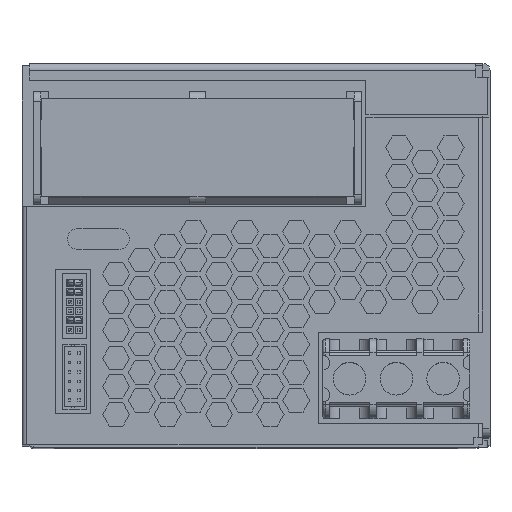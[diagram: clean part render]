
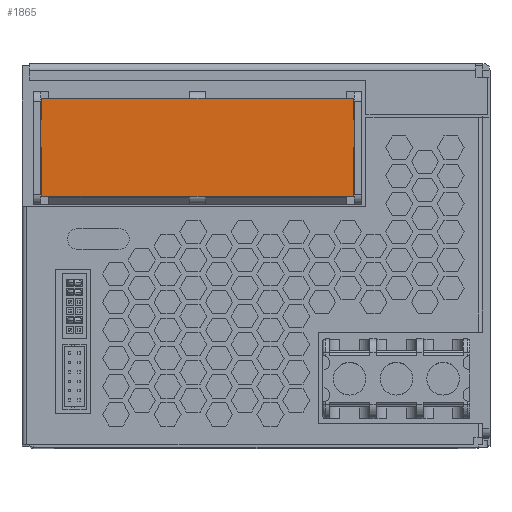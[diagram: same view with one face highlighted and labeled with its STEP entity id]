
A CAD part, top view. The second image highlights one B-rep face of the part: STEP entity #1865.
In plain terms, the highlighted planar face has unit normal (0, 0, 1).
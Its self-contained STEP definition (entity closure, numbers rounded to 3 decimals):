
#1839 = ORIENTED_EDGE ( 'NONE', *, *, #44470, .T. ) ;
#1840 = ORIENTED_EDGE ( 'NONE', *, *, #1891, .T. ) ;
#1844 = ORIENTED_EDGE ( 'NONE', *, *, #1871, .T. ) ;
#1853 = ORIENTED_EDGE ( 'NONE', *, *, #8163, .T. ) ;
#1854 = ORIENTED_EDGE ( 'NONE', *, *, #8047, .T. ) ;
#1856 = ORIENTED_EDGE ( 'NONE', *, *, #8064, .T. ) ;
#1857 = ORIENTED_EDGE ( 'NONE', *, *, #8142, .T. ) ;
#1858 = ORIENTED_EDGE ( 'NONE', *, *, #8116, .T. ) ;
#1859 = ORIENTED_EDGE ( 'NONE', *, *, #8236, .T. ) ;
#1860 = ORIENTED_EDGE ( 'NONE', *, *, #8108, .T. ) ;
#1861 = ORIENTED_EDGE ( 'NONE', *, *, #8228, .T. ) ;
#1862 = ORIENTED_EDGE ( 'NONE', *, *, #8085, .T. ) ;
#1865 = ADVANCED_FACE ( 'NONE', ( #45411 ), #45485, .F. ) ;
#1871 = EDGE_CURVE ( 'NONE', #1904, #8087, #45464, .T. ) ;
#1872 = EDGE_LOOP ( 'NONE', ( #1862, #1853, #1854, #1856, #1857, #1858, #1859, #1860, #1861, #1839, #1840, #1844 ) ) ;
#1891 = EDGE_CURVE ( 'NONE', #44557, #1904, #45525, .T. ) ;
#1904 = VERTEX_POINT ( 'NONE', #45502 ) ;
#8045 = VERTEX_POINT ( 'NONE', #66659 ) ;
#8047 = EDGE_CURVE ( 'NONE', #8160, #8045, #66656, .T. ) ;
#8062 = VERTEX_POINT ( 'NONE', #66707 ) ;
#8064 = EDGE_CURVE ( 'NONE', #8045, #8062, #66704, .T. ) ;
#8079 = VERTEX_POINT ( 'NONE', #66787 ) ;
#8085 = EDGE_CURVE ( 'NONE', #8087, #8079, #66887, .T. ) ;
#8087 = VERTEX_POINT ( 'NONE', #66882 ) ;
#8106 = VERTEX_POINT ( 'NONE', #66921 ) ;
#8108 = EDGE_CURVE ( 'NONE', #8128, #8106, #66918, .T. ) ;
#8114 = VERTEX_POINT ( 'NONE', #66907 ) ;
#8116 = EDGE_CURVE ( 'NONE', #8137, #8114, #66905, .T. ) ;
#8128 = VERTEX_POINT ( 'NONE', #66955 ) ;
#8137 = VERTEX_POINT ( 'NONE', #67053 ) ;
#8142 = EDGE_CURVE ( 'NONE', #8062, #8137, #67047, .T. ) ;
#8160 = VERTEX_POINT ( 'NONE', #67100 ) ;
#8163 = EDGE_CURVE ( 'NONE', #8079, #8160, #67095, .T. ) ;
#8225 = VERTEX_POINT ( 'NONE', #67330 ) ;
#8228 = EDGE_CURVE ( 'NONE', #8106, #8225, #67322, .T. ) ;
#8236 = EDGE_CURVE ( 'NONE', #8114, #8128, #67384, .T. ) ;
#44470 = EDGE_CURVE ( 'NONE', #8225, #44557, #73773, .T. ) ;
#44557 = VERTEX_POINT ( 'NONE', #74048 ) ;
#45411 = FACE_OUTER_BOUND ( 'NONE', #1872, .T. ) ;
#45458 = DIRECTION ( 'NONE',  ( 0., 1., 0. ) ) ;
#45459 = VECTOR ( 'NONE', #45458, 1000. ) ;
#45462 = CARTESIAN_POINT ( 'NONE',  ( -29.25, 74.5, 22. ) ) ;
#45464 = LINE ( 'NONE', #45462, #45459 ) ;
#45476 = DIRECTION ( 'NONE',  ( 1., 0., 0. ) ) ;
#45478 = DIRECTION ( 'NONE',  ( 0., 0., -1. ) ) ;
#45479 = CARTESIAN_POINT ( 'NONE',  ( -29.25, 74.5, 22. ) ) ;
#45481 = AXIS2_PLACEMENT_3D ( 'NONE', #45479, #45478, #45476 ) ;
#45485 = PLANE ( 'NONE',  #45481 ) ;
#45502 = CARTESIAN_POINT ( 'NONE',  ( -29.25, 70., 22. ) ) ;
#45519 = DIRECTION ( 'NONE',  ( -1., 0., 0. ) ) ;
#45521 = VECTOR ( 'NONE', #45519, 1000. ) ;
#45523 = CARTESIAN_POINT ( 'NONE',  ( -29.25, 70., 22. ) ) ;
#45525 = LINE ( 'NONE', #45523, #45521 ) ;
#66653 = DIRECTION ( 'NONE',  ( -1., 0., 0. ) ) ;
#66654 = VECTOR ( 'NONE', #66653, 1000. ) ;
#66655 = CARTESIAN_POINT ( 'NONE',  ( -97.5, 70., 22. ) ) ;
#66656 = LINE ( 'NONE', #66655, #66654 ) ;
#66659 = CARTESIAN_POINT ( 'NONE',  ( -97.5, 70., 22. ) ) ;
#66700 = DIRECTION ( 'NONE',  ( 0., -1., 0. ) ) ;
#66702 = VECTOR ( 'NONE', #66700, 1000. ) ;
#66703 = CARTESIAN_POINT ( 'NONE',  ( -97.5, 64., 22. ) ) ;
#66704 = LINE ( 'NONE', #66703, #66702 ) ;
#66707 = CARTESIAN_POINT ( 'NONE',  ( -97.5, 64., 22. ) ) ;
#66787 = CARTESIAN_POINT ( 'NONE',  ( -95.75, 74.5, 22. ) ) ;
#66882 = CARTESIAN_POINT ( 'NONE',  ( -29.25, 74.5, 22. ) ) ;
#66884 = DIRECTION ( 'NONE',  ( -1., 0., 0. ) ) ;
#66885 = VECTOR ( 'NONE', #66884, 1000. ) ;
#66886 = CARTESIAN_POINT ( 'NONE',  ( -95.75, 74.5, 22. ) ) ;
#66887 = LINE ( 'NONE', #66886, #66885 ) ;
#66901 = DIRECTION ( 'NONE',  ( 0., -1., 0. ) ) ;
#66902 = VECTOR ( 'NONE', #66901, 1000. ) ;
#66904 = CARTESIAN_POINT ( 'NONE',  ( -95.75, 53.5, 22. ) ) ;
#66905 = LINE ( 'NONE', #66904, #66902 ) ;
#66907 = CARTESIAN_POINT ( 'NONE',  ( -95.75, 53.5, 22. ) ) ;
#66914 = DIRECTION ( 'NONE',  ( 0., 1., 0. ) ) ;
#66916 = VECTOR ( 'NONE', #66914, 1000. ) ;
#66917 = CARTESIAN_POINT ( 'NONE',  ( -29.25, 64., 22. ) ) ;
#66918 = LINE ( 'NONE', #66917, #66916 ) ;
#66921 = CARTESIAN_POINT ( 'NONE',  ( -29.25, 64., 22. ) ) ;
#66955 = CARTESIAN_POINT ( 'NONE',  ( -29.25, 53.5, 22. ) ) ;
#67044 = DIRECTION ( 'NONE',  ( 1., 0., 0. ) ) ;
#67045 = VECTOR ( 'NONE', #67044, 1000. ) ;
#67046 = CARTESIAN_POINT ( 'NONE',  ( -95.75, 64., 22. ) ) ;
#67047 = LINE ( 'NONE', #67046, #67045 ) ;
#67053 = CARTESIAN_POINT ( 'NONE',  ( -95.75, 64., 22. ) ) ;
#67091 = DIRECTION ( 'NONE',  ( 0., -1., 0. ) ) ;
#67092 = VECTOR ( 'NONE', #67091, 1000. ) ;
#67094 = CARTESIAN_POINT ( 'NONE',  ( -95.75, 70., 22. ) ) ;
#67095 = LINE ( 'NONE', #67094, #67092 ) ;
#67100 = CARTESIAN_POINT ( 'NONE',  ( -95.75, 70., 22. ) ) ;
#67316 = DIRECTION ( 'NONE',  ( 1., 0., 0. ) ) ;
#67318 = VECTOR ( 'NONE', #67316, 1000. ) ;
#67320 = CARTESIAN_POINT ( 'NONE',  ( -27.5, 64., 22. ) ) ;
#67322 = LINE ( 'NONE', #67320, #67318 ) ;
#67330 = CARTESIAN_POINT ( 'NONE',  ( -27.5, 64., 22. ) ) ;
#67378 = DIRECTION ( 'NONE',  ( 1., 0., 0. ) ) ;
#67380 = VECTOR ( 'NONE', #67378, 1000. ) ;
#67382 = CARTESIAN_POINT ( 'NONE',  ( -29.25, 53.5, 22. ) ) ;
#67384 = LINE ( 'NONE', #67382, #67380 ) ;
#73770 = DIRECTION ( 'NONE',  ( 0., 1., 0. ) ) ;
#73771 = VECTOR ( 'NONE', #73770, 1000. ) ;
#73772 = CARTESIAN_POINT ( 'NONE',  ( -27.5, 70., 22. ) ) ;
#73773 = LINE ( 'NONE', #73772, #73771 ) ;
#74048 = CARTESIAN_POINT ( 'NONE',  ( -27.5, 70., 22. ) ) ;
